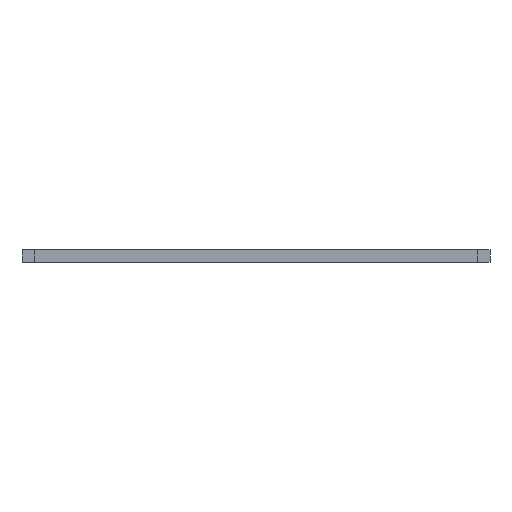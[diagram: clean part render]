
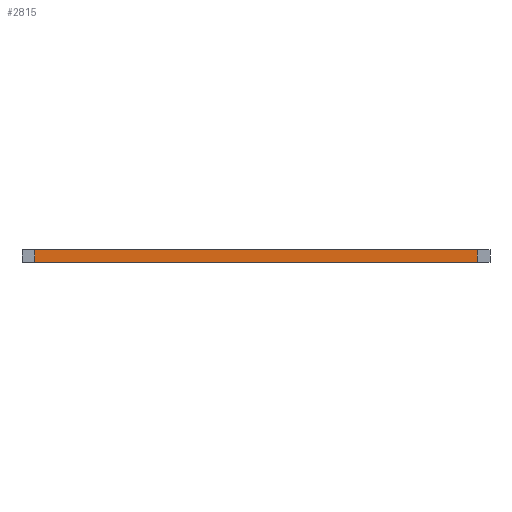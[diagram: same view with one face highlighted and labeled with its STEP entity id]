
A CAD part, front view. The second image highlights one B-rep face of the part: STEP entity #2815.
In plain terms, the highlighted planar face has unit normal (0, -1, 0).
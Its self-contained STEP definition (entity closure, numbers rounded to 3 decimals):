
#524=ORIENTED_EDGE('',*,*,#1206,.T.);
#525=ORIENTED_EDGE('',*,*,#1204,.F.);
#526=ORIENTED_EDGE('',*,*,#1207,.F.);
#527=ORIENTED_EDGE('',*,*,#1208,.T.);
#1204=EDGE_CURVE('',#1506,#1507,#1788,.T.);
#1206=EDGE_CURVE('',#1508,#1507,#1790,.T.);
#1207=EDGE_CURVE('',#1509,#1506,#1791,.T.);
#1208=EDGE_CURVE('',#1509,#1508,#1792,.T.);
#1506=VERTEX_POINT('',#4437);
#1507=VERTEX_POINT('',#4439);
#1508=VERTEX_POINT('',#4443);
#1509=VERTEX_POINT('',#4445);
#1788=LINE('',#4438,#2072);
#1790=LINE('',#4442,#2074);
#1791=LINE('',#4444,#2075);
#1792=LINE('',#4446,#2076);
#2072=VECTOR('',#3651,1000.);
#2074=VECTOR('',#3655,1000.);
#2075=VECTOR('',#3656,1000.);
#2076=VECTOR('',#3657,1000.);
#2267=EDGE_LOOP('',(#524,#525,#526,#527));
#2507=FACE_BOUND('',#2267,.T.);
#2691=PLANE('',#3034);
#2815=ADVANCED_FACE('',(#2507),#2691,.F.);
#3034=AXIS2_PLACEMENT_3D('',#4441,#3653,#3654);
#3651=DIRECTION('',(0.,0.,1.));
#3653=DIRECTION('',(0.,1.,0.));
#3654=DIRECTION('',(-1.,0.,0.));
#3655=DIRECTION('',(-1.,0.,0.));
#3656=DIRECTION('',(-1.,0.,0.));
#3657=DIRECTION('',(0.,0.,1.));
#4437=CARTESIAN_POINT('',(-52.5,-50.,-3.));
#4438=CARTESIAN_POINT('',(-52.5,-50.,-3.));
#4439=CARTESIAN_POINT('',(-52.5,-50.,0.));
#4441=CARTESIAN_POINT('',(52.5,-50.,-3.));
#4442=CARTESIAN_POINT('',(52.5,-50.,0.));
#4443=CARTESIAN_POINT('',(52.5,-50.,0.));
#4444=CARTESIAN_POINT('',(52.5,-50.,-3.));
#4445=CARTESIAN_POINT('',(52.5,-50.,-3.));
#4446=CARTESIAN_POINT('',(52.5,-50.,-3.));
